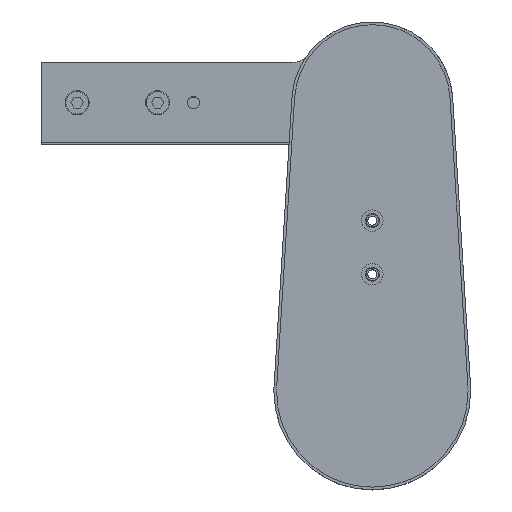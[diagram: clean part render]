
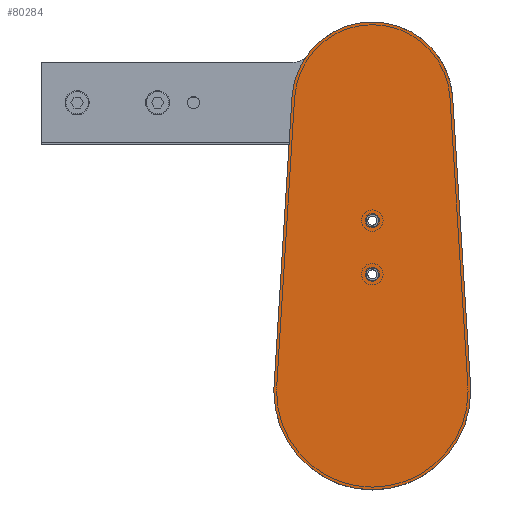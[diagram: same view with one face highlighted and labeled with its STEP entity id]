
A CAD part, top view. The second image highlights one B-rep face of the part: STEP entity #80284.
In plain terms, the highlighted planar face has unit normal (0, 0, 1) as drawn and (0, 0, -1) by its records, which use the part's own axes.
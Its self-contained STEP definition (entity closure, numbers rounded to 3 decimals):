
#186 = CARTESIAN_POINT ( 'NONE',  ( -44.914, 164.286, 0. ) ) ;
#1832 = CIRCLE ( 'NONE', #60200, 3.5 ) ;
#2245 = ORIENTED_EDGE ( 'NONE', *, *, #15096, .F. ) ;
#3640 = AXIS2_PLACEMENT_3D ( 'NONE', #47564, #67563, #16188 ) ;
#4853 = EDGE_CURVE ( 'NONE', #68378, #5814, #65682, .T. ) ;
#5286 = CARTESIAN_POINT ( 'NONE',  ( 0., 0., 0. ) ) ;
#5600 = EDGE_LOOP ( 'NONE', ( #73285, #15418 ) ) ;
#5689 = CIRCLE ( 'NONE', #66674, 3.5 ) ;
#5814 = VERTEX_POINT ( 'NONE', #34122 ) ;
#6409 = DIRECTION ( 'NONE',  ( -0.062, -0.998, 0. ) ) ;
#7490 = VERTEX_POINT ( 'NONE', #60049 ) ;
#7514 = FACE_BOUND ( 'NONE', #73418, .T. ) ;
#7521 = DIRECTION ( 'NONE',  ( 1., 0., 0. ) ) ;
#9214 = CARTESIAN_POINT ( 'NONE',  ( -54.894, 3.406, 0. ) ) ;
#9671 = CARTESIAN_POINT ( 'NONE',  ( 44.914, 164.286, 0. ) ) ;
#9925 = EDGE_CURVE ( 'NONE', #81476, #36943, #81987, .T. ) ;
#10052 = CARTESIAN_POINT ( 'NONE',  ( -55., 0., 0. ) ) ;
#11551 = FACE_OUTER_BOUND ( 'NONE', #77615, .T. ) ;
#12233 = DIRECTION ( 'NONE',  ( 0., 0., 1. ) ) ;
#12279 = DIRECTION ( 'NONE',  ( 1., 0., 0. ) ) ;
#12731 = LINE ( 'NONE', #9671, #23819 ) ;
#15096 = EDGE_CURVE ( 'NONE', #7490, #65709, #5689, .T. ) ;
#15231 = ORIENTED_EDGE ( 'NONE', *, *, #20712, .F. ) ;
#15335 = EDGE_CURVE ( 'NONE', #36943, #68378, #12731, .T. ) ;
#15418 = ORIENTED_EDGE ( 'NONE', *, *, #66923, .F. ) ;
#15991 = DIRECTION ( 'NONE',  ( 1., 0., 0. ) ) ;
#16188 = DIRECTION ( 'NONE',  ( 1., 0., 0. ) ) ;
#16841 = LINE ( 'NONE', #186, #66368 ) ;
#17424 = DIRECTION ( 'NONE',  ( 0., 0., 1. ) ) ;
#17843 = CARTESIAN_POINT ( 'NONE',  ( -3.5, 95.5, 0. ) ) ;
#18027 = AXIS2_PLACEMENT_3D ( 'NONE', #37491, #49399, #23955 ) ;
#18054 = AXIS2_PLACEMENT_3D ( 'NONE', #41692, #67365, #15991 ) ;
#19014 = DIRECTION ( 'NONE',  ( 1., 0., 0. ) ) ;
#20712 = EDGE_CURVE ( 'NONE', #82117, #44064, #56525, .T. ) ;
#20791 = DIRECTION ( 'NONE',  ( 1., 0., 0. ) ) ;
#21356 = CARTESIAN_POINT ( 'NONE',  ( 0., 161.5, 0. ) ) ;
#21407 = CARTESIAN_POINT ( 'NONE',  ( 3.5, 65.5, 0. ) ) ;
#21898 = CARTESIAN_POINT ( 'NONE',  ( 0., 65.5, 0. ) ) ;
#22451 = ORIENTED_EDGE ( 'NONE', *, *, #58538, .F. ) ;
#23819 = VECTOR ( 'NONE', #67823, 1000. ) ;
#23955 = DIRECTION ( 'NONE',  ( 1., 0., 0. ) ) ;
#24975 = DIRECTION ( 'NONE',  ( 0., 0., -1. ) ) ;
#27684 = FACE_BOUND ( 'NONE', #5600, .T. ) ;
#28223 = CARTESIAN_POINT ( 'NONE',  ( 54.894, 3.406, 0. ) ) ;
#30413 = DIRECTION ( 'NONE',  ( 1., 0., 0. ) ) ;
#31623 = ORIENTED_EDGE ( 'NONE', *, *, #52771, .F. ) ;
#34122 = CARTESIAN_POINT ( 'NONE',  ( -44.914, 164.286, 0. ) ) ;
#36612 = CARTESIAN_POINT ( 'NONE',  ( 0., 95.5, 0. ) ) ;
#36943 = VERTEX_POINT ( 'NONE', #28223 ) ;
#37491 = CARTESIAN_POINT ( 'NONE',  ( 0., 0., 0. ) ) ;
#41155 = EDGE_CURVE ( 'NONE', #66482, #63138, #49489, .T. ) ;
#41692 = CARTESIAN_POINT ( 'NONE',  ( 0., 0., 0. ) ) ;
#42570 = DIRECTION ( 'NONE',  ( 0., 0., -1. ) ) ;
#43020 = CARTESIAN_POINT ( 'NONE',  ( 0., 161.5, 0. ) ) ;
#44064 = VERTEX_POINT ( 'NONE', #10052 ) ;
#46348 = EDGE_CURVE ( 'NONE', #44064, #81476, #55652, .T. ) ;
#46741 = DIRECTION ( 'NONE',  ( 0., 0., 1. ) ) ;
#47564 = CARTESIAN_POINT ( 'NONE',  ( 0., 65.5, 0. ) ) ;
#49077 = DIRECTION ( 'NONE',  ( 1., 0., 0. ) ) ;
#49399 = DIRECTION ( 'NONE',  ( 0., 0., 1. ) ) ;
#49489 = CIRCLE ( 'NONE', #83819, 3.5 ) ;
#50561 = ORIENTED_EDGE ( 'NONE', *, *, #46348, .F. ) ;
#50573 = AXIS2_PLACEMENT_3D ( 'NONE', #5286, #17424, #30413 ) ;
#52771 = EDGE_CURVE ( 'NONE', #5814, #82117, #16841, .T. ) ;
#55652 = CIRCLE ( 'NONE', #50573, 55. ) ;
#56525 = CIRCLE ( 'NONE', #18027, 55. ) ;
#57499 = CIRCLE ( 'NONE', #3640, 3.5 ) ;
#58538 = EDGE_CURVE ( 'NONE', #65709, #7490, #1832, .T. ) ;
#59462 = DIRECTION ( 'NONE',  ( 0., 0., -1. ) ) ;
#59911 = AXIS2_PLACEMENT_3D ( 'NONE', #43020, #12233, #19014 ) ;
#60049 = CARTESIAN_POINT ( 'NONE',  ( 3.5, 95.5, 0. ) ) ;
#60200 = AXIS2_PLACEMENT_3D ( 'NONE', #36612, #42570, #49077 ) ;
#63138 = VERTEX_POINT ( 'NONE', #68214 ) ;
#63689 = CARTESIAN_POINT ( 'NONE',  ( 0., 95.5, 0. ) ) ;
#65473 = CARTESIAN_POINT ( 'NONE',  ( 44.914, 164.286, 0. ) ) ;
#65682 = CIRCLE ( 'NONE', #78383, 45. ) ;
#65709 = VERTEX_POINT ( 'NONE', #17843 ) ;
#66368 = VECTOR ( 'NONE', #6409, 1000. ) ;
#66482 = VERTEX_POINT ( 'NONE', #21407 ) ;
#66632 = CARTESIAN_POINT ( 'NONE',  ( 55., 0., 0. ) ) ;
#66674 = AXIS2_PLACEMENT_3D ( 'NONE', #63689, #24975, #12279 ) ;
#66923 = EDGE_CURVE ( 'NONE', #63138, #66482, #57499, .T. ) ;
#67365 = DIRECTION ( 'NONE',  ( 0., 0., 1. ) ) ;
#67563 = DIRECTION ( 'NONE',  ( 0., 0., -1. ) ) ;
#67823 = DIRECTION ( 'NONE',  ( -0.062, 0.998, 0. ) ) ;
#68214 = CARTESIAN_POINT ( 'NONE',  ( -3.5, 65.5, 0. ) ) ;
#68378 = VERTEX_POINT ( 'NONE', #65473 ) ;
#73285 = ORIENTED_EDGE ( 'NONE', *, *, #41155, .F. ) ;
#73418 = EDGE_LOOP ( 'NONE', ( #2245, #22451 ) ) ;
#76365 = PLANE ( 'NONE',  #59911 ) ;
#76824 = ORIENTED_EDGE ( 'NONE', *, *, #15335, .F. ) ;
#77199 = ORIENTED_EDGE ( 'NONE', *, *, #9925, .F. ) ;
#77615 = EDGE_LOOP ( 'NONE', ( #82973, #76824, #77199, #50561, #15231, #31623 ) ) ;
#78383 = AXIS2_PLACEMENT_3D ( 'NONE', #21356, #46741, #7521 ) ;
#80284 = ADVANCED_FACE ( 'NONE', ( #7514, #27684, #11551 ), #76365, .F. ) ;
#81476 = VERTEX_POINT ( 'NONE', #66632 ) ;
#81987 = CIRCLE ( 'NONE', #18054, 55. ) ;
#82117 = VERTEX_POINT ( 'NONE', #9214 ) ;
#82973 = ORIENTED_EDGE ( 'NONE', *, *, #4853, .F. ) ;
#83819 = AXIS2_PLACEMENT_3D ( 'NONE', #21898, #59462, #20791 ) ;
